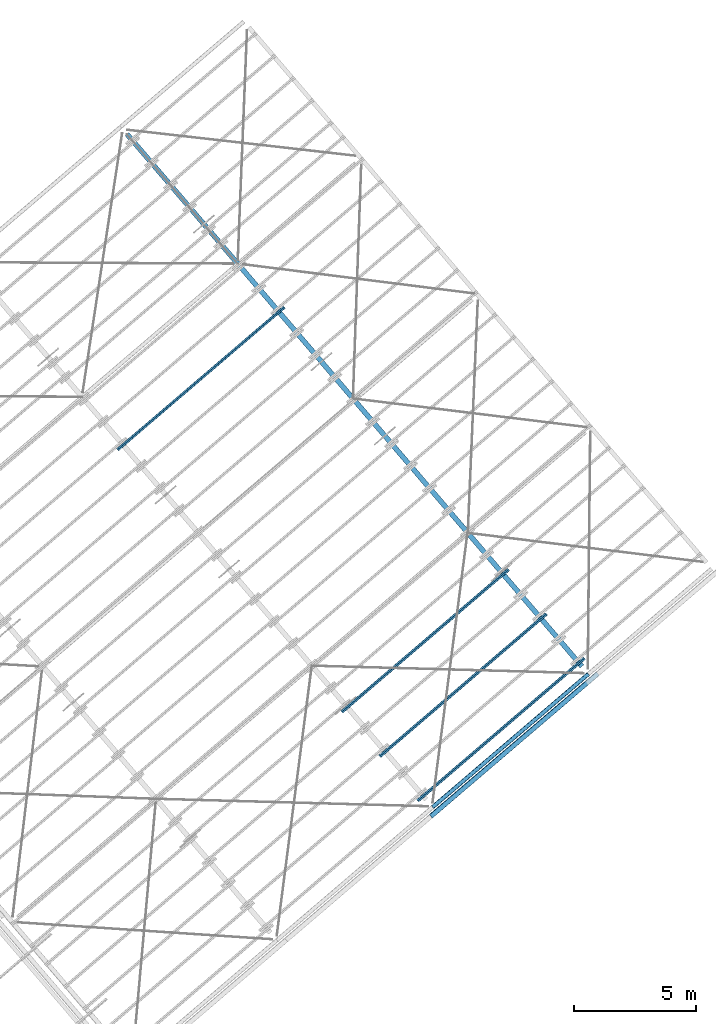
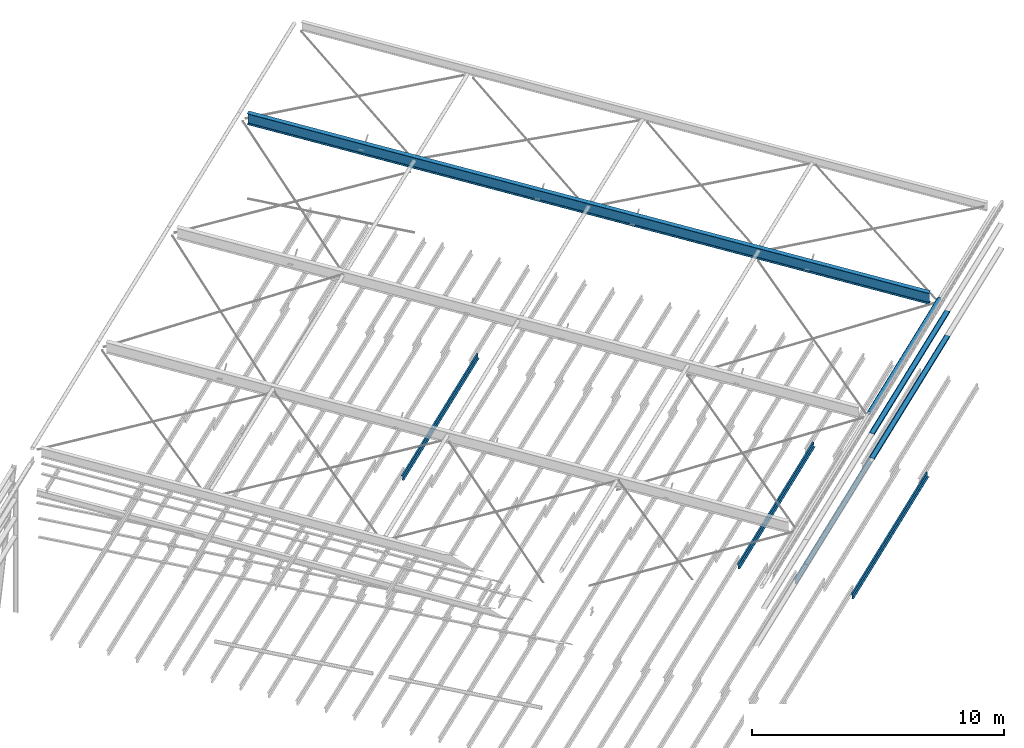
# One storey, part 14 of 25: 5 beams, 3 members, 2 elements without a shape of their own.
"""IFC2X3 building model written with IfcOpenShell, lengths in millimetres."""

from ifc_helpers import new_model, entity, si_unit, converted_unit, derived_unit, direction, frame, frame_2d, origin, origin_2d, origin_2d_with_axis, place, context, subcontext, project, spatial, polyline, circle_curve, parameter, trimmed, segment, composite_curve, hollow_circle, i_section, outline, extrude, clip, halfspace, source, transform, mapped, material, type_object, type_shapes, element, aggregate, save


model = new_model("IFC2X3")

# Units and contexts
model_context = context("Model", 3, precision=0.01, world=origin(), true_north=direction((6.123031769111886e-17, 1.0)))
body_context = subcontext(model_context, "Body", "Model", "MODEL_VIEW")
ifc_project = project(units=[si_unit("LENGTHUNIT", "METRE", prefix="MILLI"), si_unit("AREAUNIT", "SQUARE_METRE"), si_unit("VOLUMEUNIT", "CUBIC_METRE"), converted_unit("PLANEANGLEUNIT", "DEGREE", entity("IfcRatioMeasure", 0.017453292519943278), si_unit("PLANEANGLEUNIT", "RADIAN"), dimensions=[0, 0, 0, 0, 0, 0, 0]), si_unit("MASSUNIT", "GRAM", prefix="KILO"), derived_unit("MASSDENSITYUNIT", [(si_unit("MASSUNIT", "GRAM", prefix="KILO"), 1), (si_unit("LENGTHUNIT", "METRE"), -3)]), derived_unit("MOMENTOFINERTIAUNIT", [(si_unit("LENGTHUNIT", "METRE"), 4)]), si_unit("TIMEUNIT", "SECOND"), si_unit("FREQUENCYUNIT", "HERTZ"), si_unit("THERMODYNAMICTEMPERATUREUNIT", "DEGREE_CELSIUS"), derived_unit("THERMALTRANSMITTANCEUNIT", [(si_unit("MASSUNIT", "GRAM", prefix="KILO"), 1), (si_unit("THERMODYNAMICTEMPERATUREUNIT", "KELVIN"), -1), (si_unit("TIMEUNIT", "SECOND"), -3)]), derived_unit("VOLUMETRICFLOWRATEUNIT", [(si_unit("LENGTHUNIT", "METRE"), 3), (si_unit("TIMEUNIT", "SECOND"), -1)]), derived_unit("MASSFLOWRATEUNIT", [(si_unit("MASSUNIT", "GRAM", prefix="KILO"), 1), (si_unit("TIMEUNIT", "SECOND"), -1)]), derived_unit("ROTATIONALFREQUENCYUNIT", [(si_unit("TIMEUNIT", "SECOND"), -1)]), si_unit("ELECTRICCURRENTUNIT", "AMPERE"), si_unit("ELECTRICVOLTAGEUNIT", "VOLT"), si_unit("POWERUNIT", "WATT"), si_unit("FORCEUNIT", "NEWTON", prefix="KILO"), si_unit("ILLUMINANCEUNIT", "LUX"), si_unit("LUMINOUSFLUXUNIT", "LUMEN"), si_unit("LUMINOUSINTENSITYUNIT", "CANDELA"), derived_unit("USERDEFINED", [(si_unit("MASSUNIT", "GRAM", prefix="KILO"), -1), (si_unit("LENGTHUNIT", "METRE"), -2), (si_unit("TIMEUNIT", "SECOND"), 3), (si_unit("LUMINOUSFLUXUNIT", "LUMEN"), 1)]), derived_unit("SOUNDPOWERUNIT", [(si_unit("MASSUNIT", "GRAM", prefix="KILO"), 1), (si_unit("LENGTHUNIT", "METRE"), 2), (si_unit("TIMEUNIT", "SECOND"), -3)]), derived_unit("LINEARVELOCITYUNIT", [(si_unit("LENGTHUNIT", "METRE"), 1), (si_unit("TIMEUNIT", "SECOND"), -1)]), si_unit("PRESSUREUNIT", "PASCAL"), derived_unit("USERDEFINED", [(si_unit("LENGTHUNIT", "METRE"), -2), (si_unit("MASSUNIT", "GRAM", prefix="KILO"), 1), (si_unit("TIMEUNIT", "SECOND"), -2)]), derived_unit("LINEARFORCEUNIT", [(si_unit("MASSUNIT", "GRAM", prefix="KILO"), 1), (si_unit("LENGTHUNIT", "METRE"), 1), (si_unit("TIMEUNIT", "SECOND"), -2), (si_unit("LENGTHUNIT", "METRE"), -1)]), derived_unit("PLANARFORCEUNIT", [(si_unit("MASSUNIT", "GRAM", prefix="KILO"), 1), (si_unit("LENGTHUNIT", "METRE"), 1), (si_unit("TIMEUNIT", "SECOND"), -2), (si_unit("LENGTHUNIT", "METRE"), -2)])], contexts=[model_context])

# Site, building, storey
site_placement = place(None, frame((962.4174930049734, -6014.433753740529, 0.0), z_axis=(0.0, 0.0, 1.0), x_axis=(0.7601792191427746, 0.649713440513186, 0.0)))
site = spatial("IfcSite", under=ifc_project, at=site_placement, Name="Default", CompositionType="ELEMENT")
building_placement = place(site_placement, origin())
building = spatial("IfcBuilding", under=site, at=building_placement, CompositionType="ELEMENT")
storey_placement = place(building_placement, frame((0.0, 0.0, 9200.0)))
storey = spatial("IfcBuildingStorey", under=building, at=storey_placement, Name="TOP OF CEILING", CompositionType="ELEMENT", Elevation=9200.000000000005)

# Beam
ifc_material_1 = material(Name="Metal - Steel - 300 MPa")
beam_type_1 = type_object("IfcBeamType", Name="ADSK_AU_CHS-Circular Hollow Sections (AS 1163_C350):168.3x6.4CHS", PredefinedType="NOTDEFINED")
beam_1_placement = place(storey_placement, frame((170738.96020470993, -25988.428082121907, 2036.6362333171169)))
element("IfcBeam", 1, at=beam_1_placement, inside=storey, type_object=beam_type_1, material=ifc_material_1, Name="ADSK_AU_CHS-Circular Hollow Sections (AS 1163_C350):168.3x6.4CHS", ObjectType="ADSK_AU_CHS-Circular Hollow Sections (AS 1163_C350):168.3x6.4CHS", context=body_context, shape_type="SweptSolid", body=[
    extrude(hollow_circle(Radius=84.15000000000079, WallThickness=6.4000000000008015, at=origin_2d_with_axis()), frame((0.0, 0.0, -84.15000000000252), z_axis=(1.0, 0.0, 0.0), x_axis=(0.0, 1.0, 0.0)), (0.0, 0.0, 1.0), 8401.100000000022),
])

# Members
ifc_material_2 = material(Name="Metal - Steel - 345 MPa")
member_type_1 = type_object("IfcMemberType", Name="ADSK_AU_Light Gauge-Zeds:Z20012", PredefinedType="BRACE", material=ifc_material_2)
shared_shape_1 = source(origin(), body_context, "Body", "SweptSolid", [
    extrude(outline(composite_curve([segment(polyline([(-98.30000000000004, -66.44000000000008), (-82.0, -66.44000000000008)]), True, "CONTINUOUS"), segment(polyline([(-82.0, -66.44000000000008), (-82.0, -65.24000000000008)]), True, "CONTINUOUS"), segment(polyline([(-82.0, -65.24000000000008), (-98.29999999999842, -65.24000000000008)]), True, "CONTINUOUS"), segment(trimmed(circle_curve(frame_2d((-98.30000000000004, -63.24000000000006), x_axis=(0.0, -1.0)), 2.0000000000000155), [parameter(270.00000000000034)], [parameter(0.0)], True, "PARAMETER"), False, "CONTINUOUS"), segment(polyline([(-100.3, -63.24000000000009), (-100.29999999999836, -6.440000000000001)]), True, "CONTINUOUS"), segment(trimmed(circle_curve(frame_2d((-98.29999999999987, -6.439999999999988), x_axis=(-1.0, 0.0)), 1.9999999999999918), [parameter(269.9999999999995)], [parameter(0.0)], True, "PARAMETER"), False, "CONTINUOUS"), segment(polyline([(-98.29999999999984, -4.439999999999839), (98.30000000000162, -4.439999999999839)]), True, "CONTINUOUS"), segment(trimmed(circle_curve(frame_2d((98.29999999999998, -1.239999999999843), x_axis=(0.0, -1.0)), 3.199999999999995), [parameter(0.0)], [parameter(90.00000000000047)], True, "PARAMETER"), True, "CONTINUOUS"), segment(polyline([(101.49999999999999, -1.2399999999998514), (101.50000000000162, 68.3599999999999)]), True, "CONTINUOUS"), segment(trimmed(circle_curve(frame_2d((98.29999999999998, 68.35999999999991), x_axis=(1.0, 0.0)), 3.2000000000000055), [parameter(0.0)], [parameter(90.00000000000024)], True, "PARAMETER"), True, "CONTINUOUS"), segment(polyline([(98.3, 71.5599999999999), (82.0, 71.5599999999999)]), True, "CONTINUOUS"), segment(polyline([(82.0, 71.5599999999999), (82.0, 70.3599999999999)]), True, "CONTINUOUS"), segment(polyline([(82.0, 70.3599999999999), (98.30000000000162, 70.3599999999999)]), True, "CONTINUOUS"), segment(trimmed(circle_curve(frame_2d((98.29999999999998, 68.35999999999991), x_axis=(0.0, 1.0)), 1.9999999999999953), [parameter(269.99999999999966)], [parameter(0.0)], True, "PARAMETER"), False, "CONTINUOUS"), segment(polyline([(100.29999999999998, 68.3599999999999), (100.30000000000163, -1.2399999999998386)]), True, "CONTINUOUS"), segment(trimmed(circle_curve(frame_2d((98.29999999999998, -1.2399999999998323), x_axis=(1.0, 0.0)), 2.000000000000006), [parameter(270.00000000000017)], [parameter(0.0)], True, "PARAMETER"), False, "CONTINUOUS"), segment(polyline([(98.3, -3.2399999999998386), (-98.29999999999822, -3.2399999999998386)]), True, "CONTINUOUS"), segment(trimmed(circle_curve(frame_2d((-98.29999999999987, -6.439999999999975), x_axis=(0.0, 1.0)), 3.200000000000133), [parameter(0.0)], [parameter(90.00000000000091)], True, "PARAMETER"), True, "CONTINUOUS"), segment(polyline([(-101.49999999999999, -6.440000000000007), (-101.49999999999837, -63.24000000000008)]), True, "CONTINUOUS"), segment(trimmed(circle_curve(frame_2d((-98.30000000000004, -63.24000000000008), x_axis=(-1.0, 0.0)), 3.200000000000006), [parameter(0.0)], [parameter(90.00000000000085)], True, "PARAMETER"), True, "CONTINUOUS")], self_intersect=False)), frame((-4854.499999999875, 4.439999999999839, 0.0), z_axis=(1.0, 0.0, 0.0), x_axis=(0.0, 0.0, -1.0)), (0.0, 0.0, 1.0), 8999.999999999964),
])
type_shapes(member_type_1, [shared_shape_1])
member_1_placement = place(storey_placement, frame((175293.46020470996, -26224.928082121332, 22.39999999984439), z_axis=(0.0, 1.0, 0.0), x_axis=(1.0, 0.0, 0.0)))
element("IfcMember", 2, at=member_1_placement, inside=storey, type_object=member_type_1, material=ifc_material_2, Name="ADSK_AU_Light Gauge-Zeds:Z20012", ObjectType="ADSK_AU_Light Gauge-Zeds:Z20012", context=body_context, shape_type="MappedRepresentation", body=[
    mapped(shared_shape_1, transform((0.0, 0.0, 0.0), scale=1.0)),
])
member_type_2 = type_object("IfcMemberType", Name="ADSK_AU_Light Gauge-Zeds:Z20012", PredefinedType="BRACE", material=ifc_material_2)
shared_shape_2 = source(origin(), body_context, "Body", "SweptSolid", [
    extrude(outline(composite_curve([segment(polyline([(-98.30000000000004, -66.44000000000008), (-82.0, -66.44000000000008)]), True, "CONTINUOUS"), segment(polyline([(-82.0, -66.44000000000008), (-82.0, -65.24000000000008)]), True, "CONTINUOUS"), segment(polyline([(-82.0, -65.24000000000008), (-98.29999999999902, -65.24000000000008)]), True, "CONTINUOUS"), segment(trimmed(circle_curve(frame_2d((-98.30000000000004, -63.24000000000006), x_axis=(0.0, -1.0)), 2.0000000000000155), [parameter(270.00000000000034)], [parameter(0.0)], True, "PARAMETER"), False, "CONTINUOUS"), segment(polyline([(-100.30000000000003, -63.24000000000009), (-100.299999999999, -6.440000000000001)]), True, "CONTINUOUS"), segment(trimmed(circle_curve(frame_2d((-98.29999999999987, -6.440000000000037), x_axis=(-1.0, 0.0)), 2.000000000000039), [parameter(270.0000000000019)], [parameter(0.0)], True, "PARAMETER"), False, "CONTINUOUS"), segment(polyline([(-98.29999999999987, -4.439999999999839), (98.30000000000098, -4.439999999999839)]), True, "CONTINUOUS"), segment(trimmed(circle_curve(frame_2d((98.29999999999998, -1.239999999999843), x_axis=(0.0, -1.0)), 3.199999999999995), [parameter(0.0)], [parameter(90.00000000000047)], True, "PARAMETER"), True, "CONTINUOUS"), segment(polyline([(101.49999999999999, -1.2399999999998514), (101.50000000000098, 68.3599999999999)]), True, "CONTINUOUS"), segment(trimmed(circle_curve(frame_2d((98.29999999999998, 68.35999999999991), x_axis=(1.0, 0.0)), 3.2000000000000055), [parameter(0.0)], [parameter(90.00000000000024)], True, "PARAMETER"), True, "CONTINUOUS"), segment(polyline([(98.3, 71.5599999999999), (82.0, 71.5599999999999)]), True, "CONTINUOUS"), segment(polyline([(82.0, 71.5599999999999), (82.0, 70.3599999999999)]), True, "CONTINUOUS"), segment(polyline([(82.0, 70.3599999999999), (98.30000000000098, 70.3599999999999)]), True, "CONTINUOUS"), segment(trimmed(circle_curve(frame_2d((98.29999999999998, 68.35999999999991), x_axis=(0.0, 1.0)), 1.9999999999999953), [parameter(269.99999999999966)], [parameter(0.0)], True, "PARAMETER"), False, "CONTINUOUS"), segment(polyline([(100.29999999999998, 68.3599999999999), (100.30000000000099, -1.2399999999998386)]), True, "CONTINUOUS"), segment(trimmed(circle_curve(frame_2d((98.29999999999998, -1.2399999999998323), x_axis=(1.0, 0.0)), 2.000000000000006), [parameter(270.00000000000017)], [parameter(0.0)], True, "PARAMETER"), False, "CONTINUOUS"), segment(polyline([(98.3, -3.2399999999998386), (-98.29999999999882, -3.2399999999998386)]), True, "CONTINUOUS"), segment(trimmed(circle_curve(frame_2d((-98.29999999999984, -6.440000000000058), x_axis=(0.0, 1.0)), 3.200000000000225), [parameter(0.0)], [parameter(89.9999999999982)], True, "PARAMETER"), True, "CONTINUOUS"), segment(polyline([(-101.50000000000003, -6.440000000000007), (-101.499999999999, -63.24000000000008)]), True, "CONTINUOUS"), segment(trimmed(circle_curve(frame_2d((-98.30000000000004, -63.24000000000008), x_axis=(-1.0, 0.0)), 3.200000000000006), [parameter(0.0)], [parameter(90.00000000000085)], True, "PARAMETER"), True, "CONTINUOUS")], self_intersect=False)), frame((-4954.499999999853, 4.439999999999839, 0.0), z_axis=(1.0, 0.0, 0.0), x_axis=(0.0, 0.0, -1.0)), (0.0, 0.0, 1.0), 8999.999999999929),
])
type_shapes(member_type_2, [shared_shape_2])
member_2_placement = place(storey_placement, frame((175393.46020470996, -26224.928082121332, 1222.3999999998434), z_axis=(0.0, 1.0, 0.0), x_axis=(1.0, 0.0, 0.0)))
element("IfcMember", 3, at=member_2_placement, inside=storey, type_object=member_type_2, material=ifc_material_2, Name="ADSK_AU_Light Gauge-Zeds:Z20012", ObjectType="ADSK_AU_Light Gauge-Zeds:Z20012", context=body_context, shape_type="MappedRepresentation", body=[
    mapped(shared_shape_2, transform((0.0, 0.0, 0.0), scale=1.0)),
])

# Assembly, beam
assembly_1_placement = place(storey_placement, origin())
assembly_1 = element("IfcElementAssembly", 4, at=assembly_1_placement, inside=storey, Name="Structural Beam System:Structural Beam System 1", ObjectType="Structural Beam System:Structural Beam System 1", AssemblyPlace="NOTDEFINED", PredefinedType="BEAM_GRID")
beam_type_2 = type_object("IfcBeamType", Name="ADSK_AU_Light Gauge-Zeds:Z20015", PredefinedType="NOTDEFINED")
beam_2_placement = place(building_placement, frame((179438.96020471, -6460.779215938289, 3738.2266959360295), z_axis=(0.0, 0.0, 1.0), x_axis=(-1.0, 0.0, 0.0)))
beam_2 = element("IfcBeam", 5, at=beam_2_placement, type_object=beam_type_2, material=ifc_material_2, Name="ADSK_AU_Light Gauge-Zeds:Z20015", ObjectType="ADSK_AU_Light Gauge-Zeds:Z20015", context=body_context, shape_type="SweptSolid", body=[
    extrude(outline(composite_curve([segment(polyline([(100.0, 1.0), (100.0, -69.0)]), True, "CONTINUOUS"), segment(trimmed(circle_curve(frame_2d((98.0, -69.0), x_axis=(0.0, -1.0)), 2.000000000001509), [parameter(0.0)], [parameter(89.99999999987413)], True, "PARAMETER"), False, "CONTINUOUS"), segment(polyline([(98.0, -71.0), (81.49999999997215, -71.0)]), True, "CONTINUOUS"), segment(polyline([(81.49999999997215, -71.0), (81.49999999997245, -72.50000000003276)]), True, "CONTINUOUS"), segment(polyline([(81.49999999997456, -72.500000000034), (98.0, -72.50000000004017)]), True, "CONTINUOUS"), segment(trimmed(circle_curve(frame_2d((98.0, -69.0), x_axis=(1.0, 0.0)), 3.5000000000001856), [parameter(270.0000000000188)], [parameter(0.0)], True, "PARAMETER"), True, "CONTINUOUS"), segment(polyline([(101.49999999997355, -69.0), (101.50000000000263, 1.0)]), True, "CONTINUOUS"), segment(trimmed(circle_curve(frame_2d((98.0, 1.0), x_axis=(0.0, 1.0)), 3.5000000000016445), [parameter(269.9999999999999)], [parameter(0.0)], True, "PARAMETER"), True, "CONTINUOUS"), segment(polyline([(98.0, 4.49999999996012), (-98.0, 4.500000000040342)]), True, "CONTINUOUS"), segment(trimmed(circle_curve(frame_2d((-98.0, 6.500000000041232), x_axis=(-1.0, 0.0)), 2.000000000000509), [parameter(0.0)], [parameter(89.99999999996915)], True, "PARAMETER"), False, "CONTINUOUS"), segment(polyline([(-100.0, 6.500000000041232), (-100.0, 64.0)]), True, "CONTINUOUS"), segment(trimmed(circle_curve(frame_2d((-98.0, 64.0), x_axis=(0.0, 1.0)), 2.000000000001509), [parameter(0.0)], [parameter(89.99999999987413)], True, "PARAMETER"), False, "CONTINUOUS"), segment(polyline([(-98.0, 66.0), (-81.49999999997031, 66.0)]), True, "CONTINUOUS"), segment(polyline([(-81.49999999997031, 66.0), (-81.49999999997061, 67.50000000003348)]), True, "CONTINUOUS"), segment(polyline([(-81.4999999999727, 67.5000000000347), (-98.0, 67.50000000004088)]), True, "CONTINUOUS"), segment(trimmed(circle_curve(frame_2d((-98.0, 64.0), x_axis=(-1.0, 0.0)), 3.5000000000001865), [parameter(270.0000000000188)], [parameter(0.0)], True, "PARAMETER"), True, "CONTINUOUS"), segment(polyline([(-101.49999999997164, 64.0), (-101.49999999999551, 6.500000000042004)]), True, "CONTINUOUS"), segment(trimmed(circle_curve(frame_2d((-98.0, 6.500000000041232), x_axis=(0.0, -1.0)), 3.500000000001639), [parameter(269.9999999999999)], [parameter(0.0)], True, "PARAMETER"), True, "CONTINUOUS"), segment(polyline([(-98.0, 3.0), (98.0, 3.0)]), True, "CONTINUOUS"), segment(trimmed(circle_curve(frame_2d((98.0, 1.0), x_axis=(1.0, 0.0)), 2.000000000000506), [parameter(0.0)], [parameter(89.99999999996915)], True, "PARAMETER"), False, "CONTINUOUS")], self_intersect=False)), frame((0.0, -2.5912438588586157, -101.56665523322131), z_axis=(-1.0, 0.0, 0.0), x_axis=(0.0, -0.06975647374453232, -0.9975640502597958)), (0.0, 0.0, -1.0), 9000.000000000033),
])
aggregate(assembly_1, [beam_2])

# Assembly, beams
assembly_2_placement = place(storey_placement, origin())
assembly_2 = element("IfcElementAssembly", 6, at=assembly_2_placement, inside=storey, Name="Structural Beam System:Structural Beam System 1", ObjectType="Structural Beam System:Structural Beam System 1", AssemblyPlace="NOTDEFINED", PredefinedType="BEAM_GRID")
ifc_material_3 = material(Name="Metal - Light Gauge")
beam_type_3 = type_object("IfcBeamType", Name="ADSK_AU_Light Gauge-Zeds:Z20024", PredefinedType="NOTDEFINED")
beam_3_placement = place(building_placement, frame((179438.56020470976, -20603.408452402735, 2749.277720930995), z_axis=(0.0, 0.0, 1.0), x_axis=(-1.0, 0.0, 0.0)))
beam_3 = element("IfcBeam", 7, at=beam_3_placement, type_object=beam_type_3, material=ifc_material_3, Name="ADSK_AU_Light Gauge-Zeds:Z20024", ObjectType="ADSK_AU_Light Gauge-Zeds:Z20024", context=body_context, shape_type="SweptSolid", body=[
    extrude(outline(composite_curve([segment(polyline([(99.10000000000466, 1.030000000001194), (99.10000000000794, -71.6699999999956)]), True, "CONTINUOUS"), segment(trimmed(circle_curve(frame_2d((97.10000000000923, -71.66999999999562), x_axis=(0.0, -1.0)), 1.9999999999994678), [parameter(0.0)], [parameter(90.00000000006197)], True, "PARAMETER"), False, "CONTINUOUS"), segment(polyline([(97.10000000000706, -73.66999999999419), (79.50000000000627, -73.66999999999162)]), True, "CONTINUOUS"), segment(polyline([(79.50000000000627, -73.66999999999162), (79.50000000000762, -76.0699999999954)]), True, "CONTINUOUS"), segment(polyline([(79.50000000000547, -76.06999999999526), (97.10000000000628, -76.06999999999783)]), True, "CONTINUOUS"), segment(trimmed(circle_curve(frame_2d((97.10000000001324, -71.67000000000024), x_axis=(1.0, 0.0)), 4.39999999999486), [parameter(269.9999999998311)], [parameter(0.0)], True, "PARAMETER"), True, "CONTINUOUS"), segment(polyline([(101.5000000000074, -71.66999999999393), (101.50000000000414, 1.0300000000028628)]), True, "CONTINUOUS"), segment(trimmed(circle_curve(frame_2d((97.10000000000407, 1.0300000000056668), x_axis=(0.0, 1.0)), 4.399999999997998), [parameter(269.9999999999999)], [parameter(0.0)], True, "PARAMETER"), True, "CONTINUOUS"), segment(polyline([(97.1000000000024, 5.430000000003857), (-97.09999999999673, 5.42999999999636)]), True, "CONTINUOUS"), segment(trimmed(circle_curve(frame_2d((-97.0999999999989, 7.42999999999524), x_axis=(-1.0, 0.0)), 1.9999999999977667), [parameter(0.0)], [parameter(90.00000000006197)], True, "PARAMETER"), False, "CONTINUOUS"), segment(polyline([(-99.09999999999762, 7.42999999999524), (-99.09999999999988, 66.0299999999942)]), True, "CONTINUOUS"), segment(trimmed(circle_curve(frame_2d((-97.100000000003, 66.02999999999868), x_axis=(0.0, 1.0)), 1.9999999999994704), [parameter(0.0)], [parameter(90.00000000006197)], True, "PARAMETER"), False, "CONTINUOUS"), segment(polyline([(-97.10000000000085, 68.02999999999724), (-79.50000000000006, 68.02999999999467)]), True, "CONTINUOUS"), segment(polyline([(-79.4999999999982, 68.02999999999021), (-79.49999999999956, 70.42999999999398)]), True, "CONTINUOUS"), segment(polyline([(-79.49999999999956, 70.42999999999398), (-97.10000000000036, 70.42999999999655)]), True, "CONTINUOUS"), segment(trimmed(circle_curve(frame_2d((-97.10000000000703, 66.0300000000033), x_axis=(-1.0, 0.0)), 4.3999999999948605), [parameter(269.9999999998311)], [parameter(0.0)], True, "PARAMETER"), True, "CONTINUOUS"), segment(polyline([(-101.49999999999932, 66.02999999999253), (-101.49999999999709, 7.429999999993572)]), True, "CONTINUOUS"), segment(trimmed(circle_curve(frame_2d((-97.0999999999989, 7.42999999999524), x_axis=(0.0, -1.0)), 4.399999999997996), [parameter(269.9999999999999)], [parameter(0.0)], True, "PARAMETER"), True, "CONTINUOUS"), segment(polyline([(-97.09999999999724, 3.0299999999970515), (97.10000000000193, 3.0300000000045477)]), True, "CONTINUOUS"), segment(trimmed(circle_curve(frame_2d((97.10000000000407, 1.0300000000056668), x_axis=(1.0, 0.0)), 1.9999999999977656), [parameter(0.0)], [parameter(90.00000000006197)], True, "PARAMETER"), False, "CONTINUOUS")], self_intersect=False)), frame((0.0, -1.6635092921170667, -101.63152875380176), z_axis=(-1.0, 0.0, 0.0), x_axis=(0.0, -0.06975647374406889, -0.9975640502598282)), (0.0, 0.0, -1.0), 9000.000000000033),
])
beam_4_placement = place(building_placement, frame((179438.56020470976, -22997.562173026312, 2581.8621839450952), z_axis=(0.0, 0.0, 1.0), x_axis=(-1.0, 0.0, 0.0)))
beam_4 = element("IfcBeam", 8, at=beam_4_placement, type_object=beam_type_3, material=ifc_material_3, Name="ADSK_AU_Light Gauge-Zeds:Z20024", ObjectType="ADSK_AU_Light Gauge-Zeds:Z20024", context=body_context, shape_type="SweptSolid", body=[
    extrude(outline(composite_curve([segment(polyline([(99.10000000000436, 1.029999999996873), (99.10000000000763, -71.66999999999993)]), True, "CONTINUOUS"), segment(trimmed(circle_curve(frame_2d((97.10000000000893, -71.66999999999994), x_axis=(0.0, -1.0)), 1.9999999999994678), [parameter(0.0)], [parameter(90.00000000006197)], True, "PARAMETER"), False, "CONTINUOUS"), segment(polyline([(97.10000000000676, -73.66999999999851), (79.50000000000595, -73.66999999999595)]), True, "CONTINUOUS"), segment(polyline([(79.50000000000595, -73.66999999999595), (79.5000000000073, -76.06999999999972)]), True, "CONTINUOUS"), segment(polyline([(79.50000000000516, -76.06999999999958), (97.10000000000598, -76.07000000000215)]), True, "CONTINUOUS"), segment(trimmed(circle_curve(frame_2d((97.10000000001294, -71.67000000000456), x_axis=(1.0, 0.0)), 4.39999999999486), [parameter(269.9999999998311)], [parameter(0.0)], True, "PARAMETER"), True, "CONTINUOUS"), segment(polyline([(101.5000000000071, -71.66999999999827), (101.50000000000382, 1.029999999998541)]), True, "CONTINUOUS"), segment(trimmed(circle_curve(frame_2d((97.10000000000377, 1.0300000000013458), x_axis=(0.0, 1.0)), 4.399999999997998), [parameter(269.9999999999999)], [parameter(0.0)], True, "PARAMETER"), True, "CONTINUOUS"), segment(polyline([(97.1000000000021, 5.429999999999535), (-97.09999999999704, 5.429999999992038)]), True, "CONTINUOUS"), segment(trimmed(circle_curve(frame_2d((-97.09999999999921, 7.429999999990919), x_axis=(-1.0, 0.0)), 1.9999999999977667), [parameter(0.0)], [parameter(90.00000000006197)], True, "PARAMETER"), False, "CONTINUOUS"), segment(polyline([(-99.09999999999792, 7.429999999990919), (-99.10000000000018, 66.02999999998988)]), True, "CONTINUOUS"), segment(trimmed(circle_curve(frame_2d((-97.1000000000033, 66.02999999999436), x_axis=(0.0, 1.0)), 1.9999999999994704), [parameter(0.0)], [parameter(90.00000000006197)], True, "PARAMETER"), False, "CONTINUOUS"), segment(polyline([(-97.10000000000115, 68.02999999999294), (-79.50000000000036, 68.02999999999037)]), True, "CONTINUOUS"), segment(polyline([(-79.4999999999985, 68.02999999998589), (-79.49999999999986, 70.42999999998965)]), True, "CONTINUOUS"), segment(polyline([(-79.49999999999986, 70.42999999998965), (-97.10000000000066, 70.42999999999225)]), True, "CONTINUOUS"), segment(trimmed(circle_curve(frame_2d((-97.10000000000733, 66.02999999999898), x_axis=(-1.0, 0.0)), 4.3999999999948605), [parameter(269.9999999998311)], [parameter(0.0)], True, "PARAMETER"), True, "CONTINUOUS"), segment(polyline([(-101.49999999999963, 66.02999999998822), (-101.4999999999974, 7.429999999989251)]), True, "CONTINUOUS"), segment(trimmed(circle_curve(frame_2d((-97.09999999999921, 7.429999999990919), x_axis=(0.0, -1.0)), 4.399999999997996), [parameter(269.9999999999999)], [parameter(0.0)], True, "PARAMETER"), True, "CONTINUOUS"), segment(polyline([(-97.09999999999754, 3.02999999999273), (97.10000000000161, 3.030000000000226)]), True, "CONTINUOUS"), segment(trimmed(circle_curve(frame_2d((97.10000000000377, 1.0300000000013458), x_axis=(1.0, 0.0)), 1.9999999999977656), [parameter(0.0)], [parameter(90.00000000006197)], True, "PARAMETER"), False, "CONTINUOUS")], self_intersect=False)), frame((0.0, -1.6635092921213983, -101.63152875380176), z_axis=(-1.0, 0.0, 0.0), x_axis=(0.0, -0.06975647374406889, -0.9975640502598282)), (0.0, 0.0, -1.0), 9000.000000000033),
])
beam_5_placement = place(building_placement, frame((179438.56020470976, -25391.715893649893, 2414.4466469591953), z_axis=(0.0, 0.0, 1.0), x_axis=(-1.0, 0.0, 0.0)))
beam_5 = element("IfcBeam", 9, at=beam_5_placement, type_object=beam_type_3, material=ifc_material_3, Name="ADSK_AU_Light Gauge-Zeds:Z20024", ObjectType="ADSK_AU_Light Gauge-Zeds:Z20024", context=body_context, shape_type="SweptSolid", body=[
    extrude(outline(composite_curve([segment(polyline([(99.10000000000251, 1.030000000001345), (99.10000000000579, -71.66999999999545)]), True, "CONTINUOUS"), segment(trimmed(circle_curve(frame_2d((97.10000000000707, -71.66999999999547), x_axis=(0.0, -1.0)), 1.9999999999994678), [parameter(0.0)], [parameter(90.00000000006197)], True, "PARAMETER"), False, "CONTINUOUS"), segment(polyline([(97.10000000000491, -73.66999999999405), (79.5000000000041, -73.66999999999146)]), True, "CONTINUOUS"), segment(polyline([(79.5000000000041, -73.66999999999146), (79.50000000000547, -76.06999999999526)]), True, "CONTINUOUS"), segment(polyline([(79.50000000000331, -76.0699999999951), (97.10000000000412, -76.06999999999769)]), True, "CONTINUOUS"), segment(trimmed(circle_curve(frame_2d((97.10000000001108, -71.67000000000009), x_axis=(1.0, 0.0)), 4.39999999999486), [parameter(269.9999999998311)], [parameter(0.0)], True, "PARAMETER"), True, "CONTINUOUS"), segment(polyline([(101.50000000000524, -71.66999999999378), (101.50000000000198, 1.0300000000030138)]), True, "CONTINUOUS"), segment(trimmed(circle_curve(frame_2d((97.10000000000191, 1.030000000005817), x_axis=(0.0, 1.0)), 4.399999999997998), [parameter(269.9999999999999)], [parameter(0.0)], True, "PARAMETER"), True, "CONTINUOUS"), segment(polyline([(97.10000000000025, 5.430000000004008), (-97.09999999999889, 5.429999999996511)]), True, "CONTINUOUS"), segment(trimmed(circle_curve(frame_2d((-97.10000000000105, 7.42999999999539), x_axis=(-1.0, 0.0)), 1.9999999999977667), [parameter(0.0)], [parameter(90.00000000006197)], True, "PARAMETER"), False, "CONTINUOUS"), segment(polyline([(-99.09999999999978, 7.429999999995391), (-99.10000000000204, 66.02999999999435)]), True, "CONTINUOUS"), segment(trimmed(circle_curve(frame_2d((-97.10000000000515, 66.02999999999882), x_axis=(0.0, 1.0)), 1.9999999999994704), [parameter(0.0)], [parameter(90.00000000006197)], True, "PARAMETER"), False, "CONTINUOUS"), segment(polyline([(-97.10000000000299, 68.0299999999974), (-79.5000000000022, 68.02999999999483)]), True, "CONTINUOUS"), segment(polyline([(-79.50000000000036, 68.02999999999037), (-79.50000000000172, 70.42999999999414)]), True, "CONTINUOUS"), segment(polyline([(-79.50000000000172, 70.42999999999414), (-97.10000000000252, 70.42999999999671)]), True, "CONTINUOUS"), segment(trimmed(circle_curve(frame_2d((-97.10000000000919, 66.03000000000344), x_axis=(-1.0, 0.0)), 4.3999999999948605), [parameter(269.9999999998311)], [parameter(0.0)], True, "PARAMETER"), True, "CONTINUOUS"), segment(polyline([(-101.50000000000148, 66.02999999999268), (-101.49999999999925, 7.429999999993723)]), True, "CONTINUOUS"), segment(trimmed(circle_curve(frame_2d((-97.10000000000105, 7.42999999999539), x_axis=(0.0, -1.0)), 4.399999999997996), [parameter(269.9999999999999)], [parameter(0.0)], True, "PARAMETER"), True, "CONTINUOUS"), segment(polyline([(-97.0999999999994, 3.0299999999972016), (97.09999999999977, 3.0300000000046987)]), True, "CONTINUOUS"), segment(trimmed(circle_curve(frame_2d((97.10000000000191, 1.030000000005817), x_axis=(1.0, 0.0)), 1.9999999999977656), [parameter(0.0)], [parameter(90.00000000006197)], True, "PARAMETER"), False, "CONTINUOUS")], self_intersect=False)), frame((0.0, -1.6635092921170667, -101.63152875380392), z_axis=(-1.0, 0.0, 0.0), x_axis=(0.0, -0.06975647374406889, -0.9975640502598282)), (0.0, 0.0, -1.0), 9000.000000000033),
])
aggregate(assembly_2, [beam_3, beam_4, beam_5])

# Member
member_type_3 = type_object("IfcMemberType", Name="ADSK_AU_UB-Universal Beams (AS 3679_1):530UB92.4", PredefinedType="MEMBER", material=ifc_material_1)
member_3_placement = place(storey_placement, frame((179138.96020471, -26768.410268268, 1830.5396528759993), z_axis=(0.0, -0.9975640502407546, -0.0697564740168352), x_axis=(1.0, 0.0, 0.0)))
element("IfcMember", 10, at=member_3_placement, inside=storey, type_object=member_type_3, material=ifc_material_1, Name="ADSK_AU_UB-Universal Beams (AS 3679_1):530UB92.4", ObjectType="530UB92.4", context=model_context, shape_type="Clipping", body=[
    clip(clip(extrude(i_section(OverallWidth=209.0, OverallDepth=533.0, WebThickness=10.2, FlangeThickness=15.6, FilletRadius=14.0, at=origin_2d()), origin(), (0.0, 0.0, -1.0), 30949.967353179), halfspace(frame((-179138.96020471, -11086.539330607, -415.637769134), z_axis=(0.0, -0.069756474, -0.99756405), x_axis=(-1.0, 0.0, 0.0)), True)), halfspace(frame((-179138.96020471, -13089.00340463, -29052.208182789), z_axis=(0.0, 0.069756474, 0.99756405), x_axis=(1.0, 0.0, 0.0)), True)),
])

save(model, "model.ifc")
